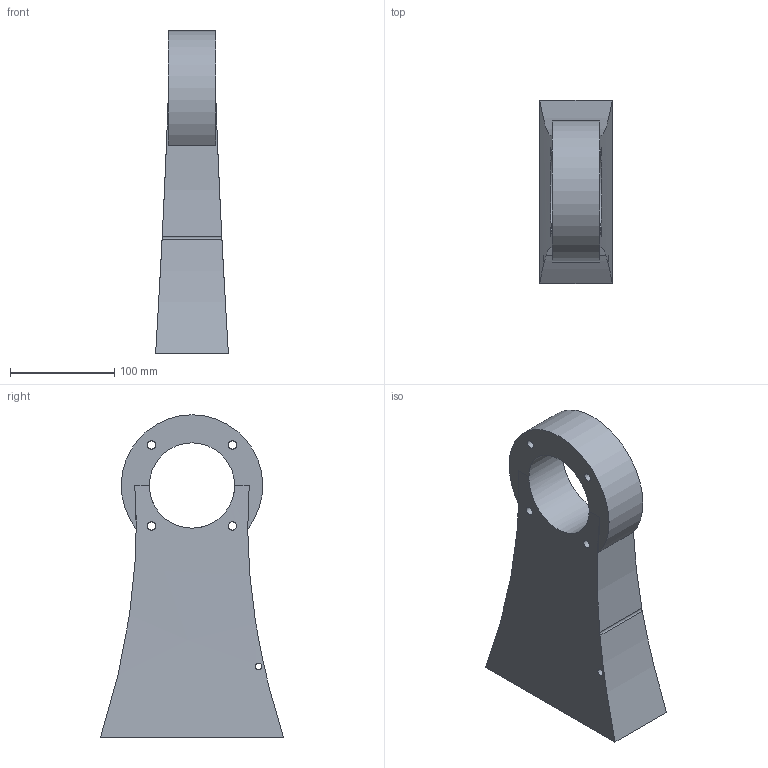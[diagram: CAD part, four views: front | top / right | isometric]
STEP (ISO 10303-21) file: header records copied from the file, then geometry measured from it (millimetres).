
FILE_DESCRIPTION(('Open CASCADE Model'),'2;1');
FILE_NAME('Open CASCADE Shape Model','2026-10-08T06:53:13',('Author'),( 'Open CASCADE'),'Open CASCADE STEP processor 7.8','Open CASCADE 7.8' ,'Unknown');
FILE_SCHEMA(('AUTOMOTIVE_DESIGN { 1 0 10303 214 1 1 1 1 }'));
Length unit declared in the file: millimetre
Products named in the file (1): Open CASCADE STEP translator 7.8 8
Bounding box: 70 x 176 x 310 mm (x, y, z)
Volume: 1892328.9 mm3; surface area: 137098.4 mm2
Topology: 1 solids, 1 shells, 20 faces, 52 edges, 34 vertices
Faces by surface type: cylinder 10, bspline 5, plane 5
Full cylindrical faces by diameter (mm): 6.6 x1, 8 x4, 9 x2, 82 x1
Entity records: 3152 total; most frequent: CARTESIAN_POINT 2232, DIRECTION 116, ORIENTED_EDGE 104, PCURVE 104, DEFINITIONAL_REPRESENTATION 104, B_SPLINE_CURVE_WITH_KNOTS 76, LINE 56, VECTOR 56
